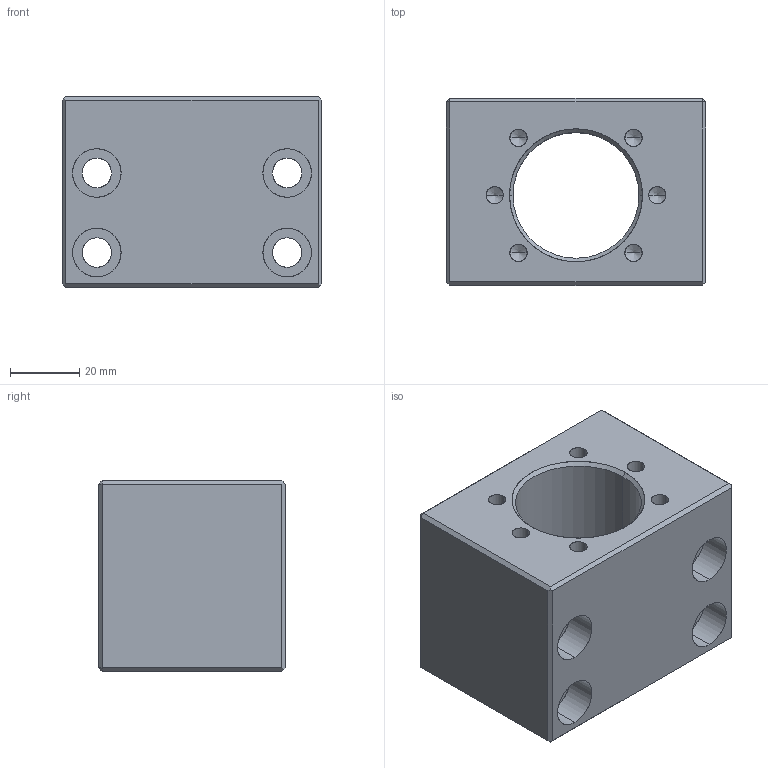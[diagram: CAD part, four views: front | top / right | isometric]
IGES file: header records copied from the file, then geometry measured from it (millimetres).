
Start section: SolidWorks IGES file using analytic representation for surfaces
Bounding box: 75 x 54 x 55 mm (x, y, z)
Surface area: 33302.9 mm2 (no closed solid volume)
Topology: 0 solids, 0 shells, 72 faces, 1112 edges, 1100 vertices
Faces by surface type: revolution 46, bspline 26
